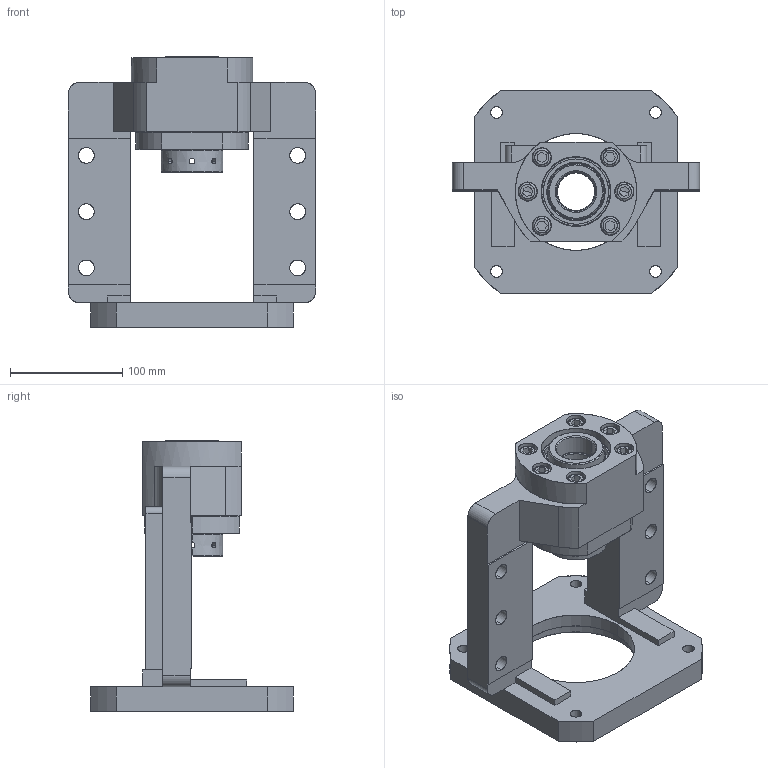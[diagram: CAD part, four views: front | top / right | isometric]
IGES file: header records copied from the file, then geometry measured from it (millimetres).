
Start section: SolidWorks IGES file using analytic representation for surfaces
Bounding box: 220 x 180 x 241 mm (x, y, z)
Surface area: 242041.8 mm2 (no closed solid volume)
Topology: 0 solids, 0 shells, 346 faces, 6718 edges, 6706 vertices
Faces by surface type: revolution 192, bspline 154
